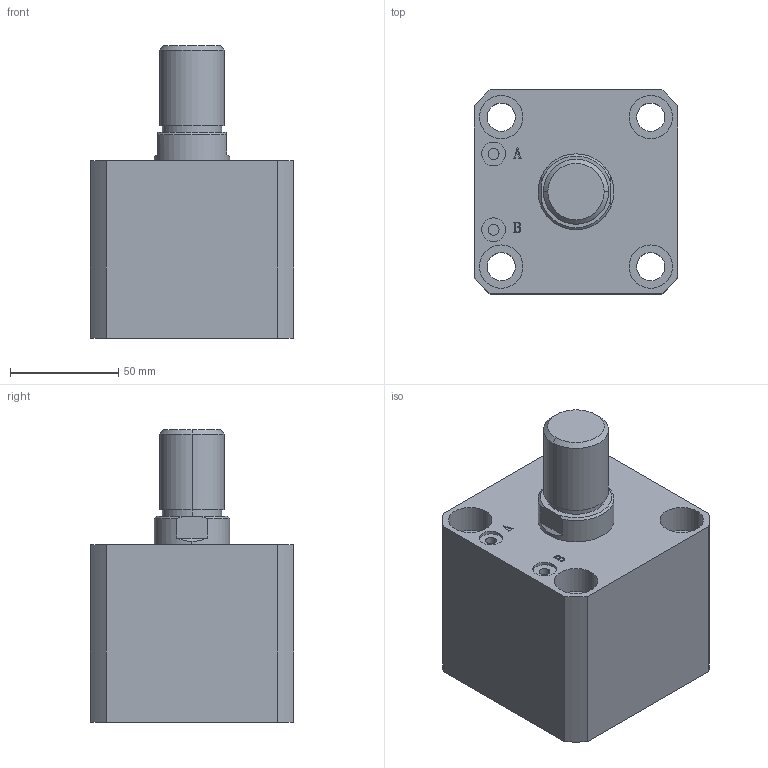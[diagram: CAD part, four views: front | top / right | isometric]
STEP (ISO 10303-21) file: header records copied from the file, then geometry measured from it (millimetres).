
FILE_DESCRIPTION (( 'STEP AP203' ), '1' );
FILE_NAME ('HTB-SDMA63-15W.STEP', '2019-10-08T01:01:50', ( '微软用户' ), ( '微软中国' ), 'SwSTEP 2.0', 'SolidWorks 2012', '' );
FILE_SCHEMA (( 'CONFIG_CONTROL_DESIGN' ));
Length unit declared in the file: millimetre
Products named in the file (3): HTB-SDMA63-15W; HTB-SDMA63-15W活塞杆; HTB-SDMA63-15掛极
Assembly tree (2 placements, depth 2):
  HTB-SDMA63-15W
    HTB-SDMA63-15掛极
    HTB-SDMA63-15W活塞杆
Bounding box: 94 x 94 x 135 mm (x, y, z)
Volume: 660354.9 mm3; surface area: 96794.8 mm2
Topology: 2 solids, 2 shells, 141 faces, 337 edges, 222 vertices
Faces by surface type: plane 67, cylinder 48, bspline 16, torus 6, cone 4
Entity records: 5176 total; most frequent: CARTESIAN_POINT 1593, ORIENTED_EDGE 674, DIRECTION 669, EDGE_CURVE 337, AXIS2_PLACEMENT_3D 242, VERTEX_POINT 222, LINE 185, VECTOR 185
